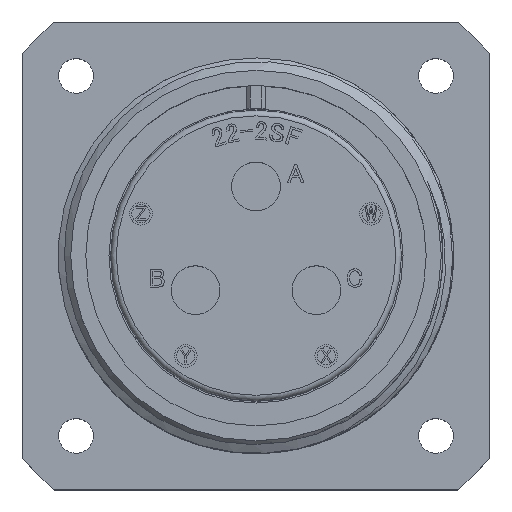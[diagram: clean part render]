
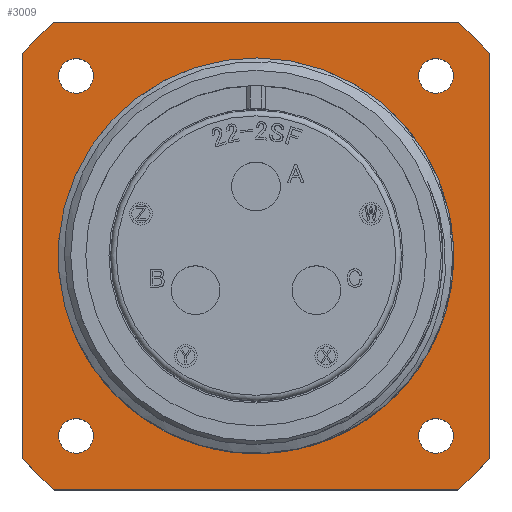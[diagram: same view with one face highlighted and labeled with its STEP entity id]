
A CAD part, top view. The second image highlights one B-rep face of the part: STEP entity #3009.
In plain terms, the highlighted planar face has unit normal (0, 0, 1).
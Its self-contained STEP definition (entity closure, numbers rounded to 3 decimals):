
#38 = DIRECTION ( 'NONE',  ( 0., -1., 0. ) ) ;
#145 = DIRECTION ( 'NONE',  ( 0., 0., 1. ) ) ;
#230 = CARTESIAN_POINT ( 'NONE',  ( 0., 0., -19.2 ) ) ;
#353 = VERTEX_POINT ( 'NONE', #4616 ) ;
#432 = ORIENTED_EDGE ( 'NONE', *, *, #24654, .F. ) ;
#595 = CARTESIAN_POINT ( 'NONE',  ( 17.4, -15.875, -19.2 ) ) ;
#767 = CARTESIAN_POINT ( 'NONE',  ( -14.35, 15.875, -19.2 ) ) ;
#1035 = EDGE_CURVE ( 'NONE', #23293, #23293, #22217, .T. ) ;
#1142 = LINE ( 'NONE', #4677, #9411 ) ;
#1299 = DIRECTION ( 'NONE',  ( 0., 0., 1. ) ) ;
#1564 = DIRECTION ( 'NONE',  ( 1., 0., 0. ) ) ;
#1576 = LINE ( 'NONE', #11612, #21171 ) ;
#1821 = VECTOR ( 'NONE', #38, 1000. ) ;
#2063 = CARTESIAN_POINT ( 'NONE',  ( 20.635, -17.798, -19.2 ) ) ;
#2113 = AXIS2_PLACEMENT_3D ( 'NONE', #5955, #7822, #21706 ) ;
#2670 = ORIENTED_EDGE ( 'NONE', *, *, #13490, .T. ) ;
#2753 = AXIS2_PLACEMENT_3D ( 'NONE', #22363, #14255, #10648 ) ;
#2981 = CIRCLE ( 'NONE', #9151, 1.525 ) ;
#3009 = ADVANCED_FACE ( 'NONE', ( #22779, #21869, #16974, #16657, #20320, #5338 ), #21187, .T. ) ;
#3418 = AXIS2_PLACEMENT_3D ( 'NONE', #5082, #20711, #7022 ) ;
#3827 = DIRECTION ( 'NONE',  ( 0., 0., -1. ) ) ;
#4048 = VERTEX_POINT ( 'NONE', #23403 ) ;
#4049 = CIRCLE ( 'NONE', #7854, 1.525 ) ;
#4056 = EDGE_CURVE ( 'NONE', #12879, #12879, #18754, .T. ) ;
#4369 = VERTEX_POINT ( 'NONE', #22643 ) ;
#4616 = CARTESIAN_POINT ( 'NONE',  ( 17.4, 15.875, -19.2 ) ) ;
#4677 = CARTESIAN_POINT ( 'NONE',  ( 20.635, 20.635, -19.2 ) ) ;
#5082 = CARTESIAN_POINT ( 'NONE',  ( 0., 0., -19.2 ) ) ;
#5111 = CARTESIAN_POINT ( 'NONE',  ( -20.635, -17.798, -19.2 ) ) ;
#5246 = EDGE_LOOP ( 'NONE', ( #14312 ) ) ;
#5338 = FACE_BOUND ( 'NONE', #18827, .T. ) ;
#5765 = ORIENTED_EDGE ( 'NONE', *, *, #7273, .F. ) ;
#5793 = VERTEX_POINT ( 'NONE', #15552 ) ;
#5955 = CARTESIAN_POINT ( 'NONE',  ( -15.875, 15.875, -19.2 ) ) ;
#6451 = CARTESIAN_POINT ( 'NONE',  ( 0., 0., -19.2 ) ) ;
#6480 = CARTESIAN_POINT ( 'NONE',  ( -20.635, 20.635, -19.2 ) ) ;
#7022 = DIRECTION ( 'NONE',  ( 1., 0., 0. ) ) ;
#7273 = EDGE_CURVE ( 'NONE', #9506, #9506, #19318, .T. ) ;
#7367 = CARTESIAN_POINT ( 'NONE',  ( 15.875, 15.875, -19.2 ) ) ;
#7404 = DIRECTION ( 'NONE',  ( 1., 0., 0. ) ) ;
#7568 = ORIENTED_EDGE ( 'NONE', *, *, #4056, .F. ) ;
#7822 = DIRECTION ( 'NONE',  ( 0., 0., 1. ) ) ;
#7854 = AXIS2_PLACEMENT_3D ( 'NONE', #18741, #1299, #22668 ) ;
#8426 = DIRECTION ( 'NONE',  ( 1., 0., 0. ) ) ;
#8541 = ORIENTED_EDGE ( 'NONE', *, *, #20098, .T. ) ;
#9151 = AXIS2_PLACEMENT_3D ( 'NONE', #7367, #23038, #1564 ) ;
#9411 = VECTOR ( 'NONE', #22283, 1000. ) ;
#9506 = VERTEX_POINT ( 'NONE', #18368 ) ;
#9820 = VERTEX_POINT ( 'NONE', #24368 ) ;
#9850 = CIRCLE ( 'NONE', #12021, 27.25 ) ;
#9863 = CARTESIAN_POINT ( 'NONE',  ( -20.635, 20.635, -19.2 ) ) ;
#10163 = DIRECTION ( 'NONE',  ( 1., 0., 0. ) ) ;
#10427 = ORIENTED_EDGE ( 'NONE', *, *, #12966, .F. ) ;
#10429 = DIRECTION ( 'NONE',  ( -1., 0., 0. ) ) ;
#10430 = DIRECTION ( 'NONE',  ( 1., 0., 0. ) ) ;
#10648 = DIRECTION ( 'NONE',  ( 1., 0., 0. ) ) ;
#10989 = EDGE_LOOP ( 'NONE', ( #15019 ) ) ;
#11024 = LINE ( 'NONE', #9863, #1821 ) ;
#11121 = VERTEX_POINT ( 'NONE', #5111 ) ;
#11612 = CARTESIAN_POINT ( 'NONE',  ( -20.635, -20.635, -19.2 ) ) ;
#12012 = DIRECTION ( 'NONE',  ( 1., 0., 0. ) ) ;
#12021 = AXIS2_PLACEMENT_3D ( 'NONE', #24355, #20167, #10430 ) ;
#12035 = DIRECTION ( 'NONE',  ( 0., 0., 1. ) ) ;
#12879 = VERTEX_POINT ( 'NONE', #767 ) ;
#12966 = EDGE_CURVE ( 'NONE', #5793, #11121, #19505, .T. ) ;
#13401 = CARTESIAN_POINT ( 'NONE',  ( 0., 0., -19.2 ) ) ;
#13490 = EDGE_CURVE ( 'NONE', #22751, #4369, #1142, .T. ) ;
#13766 = EDGE_CURVE ( 'NONE', #353, #353, #2981, .T. ) ;
#14255 = DIRECTION ( 'NONE',  ( 0., 0., 1. ) ) ;
#14312 = ORIENTED_EDGE ( 'NONE', *, *, #18936, .F. ) ;
#14674 = EDGE_CURVE ( 'NONE', #22751, #9820, #21621, .T. ) ;
#15019 = ORIENTED_EDGE ( 'NONE', *, *, #13766, .F. ) ;
#15229 = AXIS2_PLACEMENT_3D ( 'NONE', #13401, #3827, #7404 ) ;
#15552 = CARTESIAN_POINT ( 'NONE',  ( -17.798, -20.635, -19.2 ) ) ;
#15910 = CARTESIAN_POINT ( 'NONE',  ( -20.635, 17.798, -19.2 ) ) ;
#16126 = AXIS2_PLACEMENT_3D ( 'NONE', #6451, #20135, #8426 ) ;
#16657 = FACE_BOUND ( 'NONE', #5246, .T. ) ;
#16953 = ORIENTED_EDGE ( 'NONE', *, *, #1035, .F. ) ;
#16974 = FACE_BOUND ( 'NONE', #19150, .T. ) ;
#16997 = CARTESIAN_POINT ( 'NONE',  ( -14.35, -15.875, -19.2 ) ) ;
#17218 = CARTESIAN_POINT ( 'NONE',  ( 17.798, 20.635, -19.2 ) ) ;
#17874 = AXIS2_PLACEMENT_3D ( 'NONE', #230, #145, #12012 ) ;
#18351 = ORIENTED_EDGE ( 'NONE', *, *, #23310, .T. ) ;
#18368 = CARTESIAN_POINT ( 'NONE',  ( 17.44, 0., -19.2 ) ) ;
#18471 = VECTOR ( 'NONE', #10429, 1000. ) ;
#18741 = CARTESIAN_POINT ( 'NONE',  ( -15.875, -15.875, -19.2 ) ) ;
#18754 = CIRCLE ( 'NONE', #2113, 1.525 ) ;
#18827 = EDGE_LOOP ( 'NONE', ( #5765 ) ) ;
#18936 = EDGE_CURVE ( 'NONE', #19291, #19291, #4049, .T. ) ;
#19150 = EDGE_LOOP ( 'NONE', ( #16953 ) ) ;
#19291 = VERTEX_POINT ( 'NONE', #16997 ) ;
#19318 = CIRCLE ( 'NONE', #24646, 17.44 ) ;
#19505 = CIRCLE ( 'NONE', #3418, 27.25 ) ;
#19554 = DIRECTION ( 'NONE',  ( 1., 0., 0. ) ) ;
#20098 = EDGE_CURVE ( 'NONE', #24527, #11121, #11024, .T. ) ;
#20135 = DIRECTION ( 'NONE',  ( 0., 0., -1. ) ) ;
#20167 = DIRECTION ( 'NONE',  ( 0., 0., -1. ) ) ;
#20320 = FACE_OUTER_BOUND ( 'NONE', #23400, .T. ) ;
#20711 = DIRECTION ( 'NONE',  ( 0., 0., -1. ) ) ;
#21171 = VECTOR ( 'NONE', #10163, 1000. ) ;
#21187 = PLANE ( 'NONE',  #17874 ) ;
#21419 = EDGE_LOOP ( 'NONE', ( #7568 ) ) ;
#21621 = CIRCLE ( 'NONE', #15229, 27.25 ) ;
#21706 = DIRECTION ( 'NONE',  ( 1., 0., 0. ) ) ;
#21801 = VERTEX_POINT ( 'NONE', #17218 ) ;
#21869 = FACE_BOUND ( 'NONE', #10989, .T. ) ;
#22217 = CIRCLE ( 'NONE', #2753, 1.525 ) ;
#22283 = DIRECTION ( 'NONE',  ( 0., 1., 0. ) ) ;
#22363 = CARTESIAN_POINT ( 'NONE',  ( 15.875, -15.875, -19.2 ) ) ;
#22643 = CARTESIAN_POINT ( 'NONE',  ( 20.635, 17.798, -19.2 ) ) ;
#22668 = DIRECTION ( 'NONE',  ( 1., 0., 0. ) ) ;
#22751 = VERTEX_POINT ( 'NONE', #2063 ) ;
#22779 = FACE_BOUND ( 'NONE', #21419, .T. ) ;
#23038 = DIRECTION ( 'NONE',  ( 0., 0., 1. ) ) ;
#23208 = ORIENTED_EDGE ( 'NONE', *, *, #23895, .F. ) ;
#23293 = VERTEX_POINT ( 'NONE', #595 ) ;
#23310 = EDGE_CURVE ( 'NONE', #21801, #4048, #23683, .T. ) ;
#23346 = CIRCLE ( 'NONE', #16126, 27.25 ) ;
#23400 = EDGE_LOOP ( 'NONE', ( #23208, #18351, #432, #8541, #10427, #24810, #25106, #2670 ) ) ;
#23403 = CARTESIAN_POINT ( 'NONE',  ( -17.798, 20.635, -19.2 ) ) ;
#23683 = LINE ( 'NONE', #6480, #18471 ) ;
#23769 = CARTESIAN_POINT ( 'NONE',  ( 0., 0., -19.2 ) ) ;
#23895 = EDGE_CURVE ( 'NONE', #21801, #4369, #23346, .T. ) ;
#24355 = CARTESIAN_POINT ( 'NONE',  ( 0., 0., -19.2 ) ) ;
#24368 = CARTESIAN_POINT ( 'NONE',  ( 17.798, -20.635, -19.2 ) ) ;
#24527 = VERTEX_POINT ( 'NONE', #15910 ) ;
#24646 = AXIS2_PLACEMENT_3D ( 'NONE', #23769, #12035, #19554 ) ;
#24654 = EDGE_CURVE ( 'NONE', #24527, #4048, #9850, .T. ) ;
#24810 = ORIENTED_EDGE ( 'NONE', *, *, #25225, .T. ) ;
#25106 = ORIENTED_EDGE ( 'NONE', *, *, #14674, .F. ) ;
#25225 = EDGE_CURVE ( 'NONE', #5793, #9820, #1576, .T. ) ;
